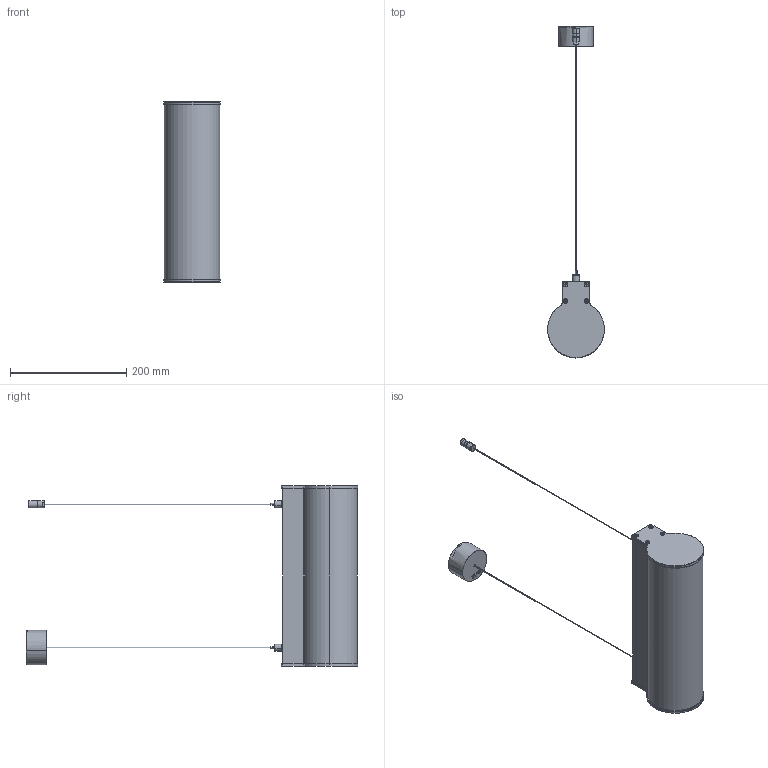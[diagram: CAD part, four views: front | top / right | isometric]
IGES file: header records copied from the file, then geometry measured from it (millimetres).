
Start section: SolidWorks IGES file using analytic representation for surfaces
Global section: file name: C:\Users\JoãoSantos\Desktop\02_3D.2D\01_2020\02_Linear\01_O975\02_Suspensa\O975_SUSP_310.IGS; native system: SolidWorks 2020; preprocessor: SolidWorks 2020; author: JoãoSantos; date: 201021.110026; units: millimetre
Bounding box: 97.5 x 570.21 x 310 mm (x, y, z)
Surface area: 328950.6 mm2 (no closed solid volume)
Topology: 0 solids, 0 shells, 611 faces, 7330 edges, 7314 vertices
Faces by surface type: bspline 323, revolution 288
